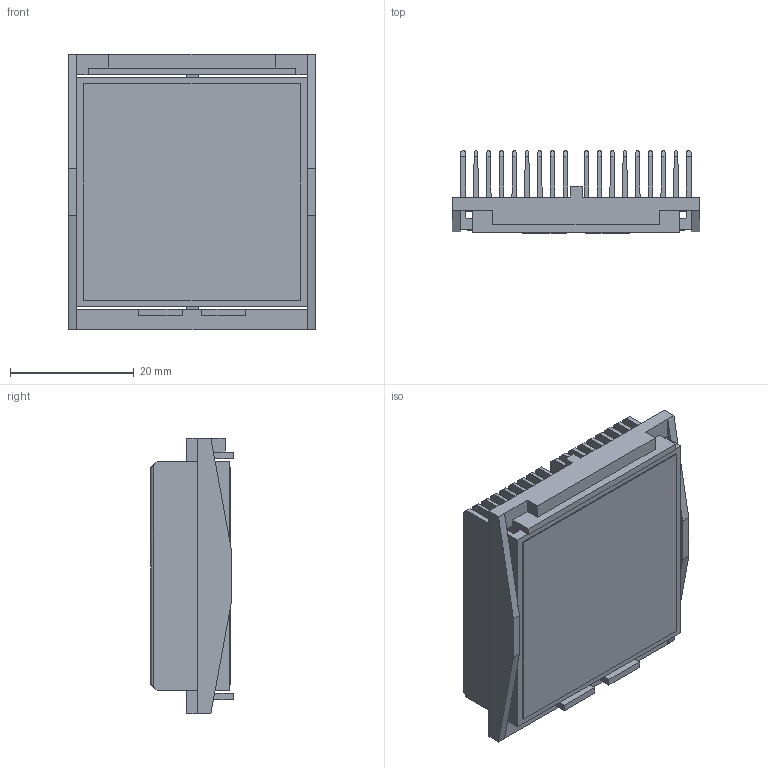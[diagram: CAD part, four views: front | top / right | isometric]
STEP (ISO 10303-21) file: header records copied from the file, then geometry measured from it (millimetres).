
FILE_DESCRIPTION (( 'STEP AP214' ), '1' );
FILE_NAME ('INL37.5001-13-1.7O.STEP', '2023-03-01T15:46:09', ( '' ), ( '' ), 'SwSTEP 2.0', 'SolidWorks 2020', '' );
FILE_SCHEMA (( 'AUTOMOTIVE_DESIGN' ));
Length unit declared in the file: millimetre
Products named in the file (1): INL37.5001-13-1.7O
Bounding box: 40.1 x 13.3 x 44.6 mm (x, y, z)
Volume: 9311.4 mm3; surface area: 22481.4 mm2
Topology: 3 solids, 3 shells, 198 faces, 578 edges, 384 vertices
Faces by surface type: plane 146, cylinder 52
Entity records: 8712 total; most frequent: CARTESIAN_POINT 1269, ORIENTED_EDGE 1156, DIRECTION 1008, EDGE_CURVE 578, VECTOR 474, LINE 474, VERTEX_POINT 384, AXIS2_PLACEMENT_3D 267
